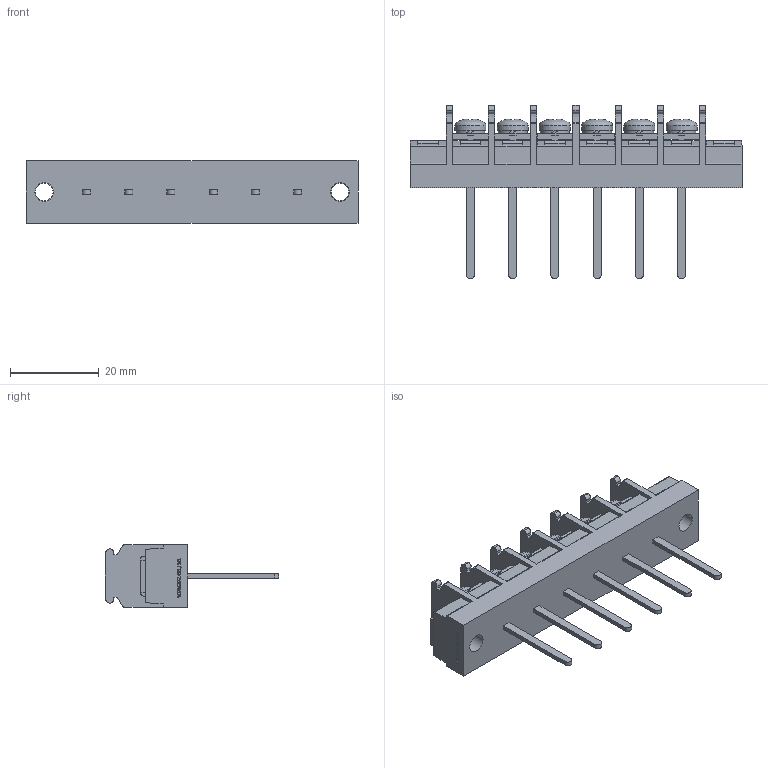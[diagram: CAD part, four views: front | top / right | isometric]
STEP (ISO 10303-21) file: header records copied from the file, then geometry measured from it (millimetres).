
FILE_DESCRIPTION(/* description */ ('Alibre Inc.'),/* implementation_level */ '2;1');
FILE_NAME(/* name */ 'export-9BFE2682-25FA-4052-ACD8-021C4C1DA17B',/* time_stamp */ '2021-02-13T17:32:30+09:00',/* author */ (''),/* organization */ (''),/* preprocessor_version */ 'ST-DEVELOPER v17',/* originating_system */ 'Alibre',/* authorisation */ '');
FILE_SCHEMA (('CONFIG_CONTROL_DESIGN'));
Length unit declared in the file: millimetre
Bounding box: 74.7 x 39 x 14 mm (x, y, z)
Volume: 12065.5 mm3; surface area: 8545.5 mm2
Topology: 1 solids, 23 shells, 1150 faces, 3200 edges, 2108 vertices
Faces by surface type: plane 854, cylinder 144, bspline 104, cone 30, torus 12, sphere 6
Full cylindrical faces by diameter (mm): 4 x14, 4.2 x2, 7 x6
Entity records: 35085 total; most frequent: CARTESIAN_POINT 7370, ORIENTED_EDGE 6292, DIRECTION 4460, EDGE_CURVE 3146, VECTOR 2306, LINE 2306, VERTEX_POINT 2094, AXIS2_PLACEMENT_3D 1482
